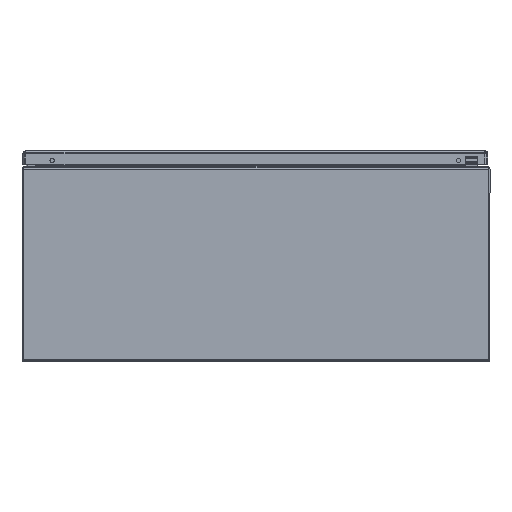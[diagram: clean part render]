
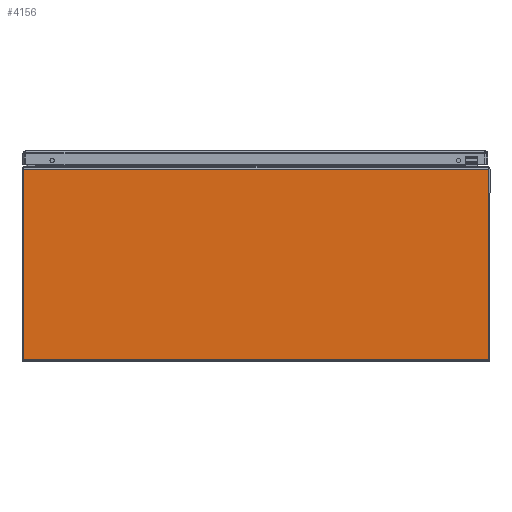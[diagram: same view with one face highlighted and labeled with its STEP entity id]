
A CAD part, front view. The second image highlights one B-rep face of the part: STEP entity #4156.
In plain terms, the highlighted planar face has unit normal (0, -1, 0).
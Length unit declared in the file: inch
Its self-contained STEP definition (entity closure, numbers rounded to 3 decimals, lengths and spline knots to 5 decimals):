
#732 = LINE ( 'NONE', #30303, #26408 ) ;
#1136 = VECTOR ( 'NONE', #42742, 39.37008 ) ;
#3720 = DIRECTION ( 'NONE',  ( 0., -1., 0. ) ) ;
#3725 = VECTOR ( 'NONE', #28875, 39.37008 ) ;
#4156 = ADVANCED_FACE ( 'NONE', ( #7754 ), #23772, .T. ) ;
#6454 = CARTESIAN_POINT ( 'NONE',  ( 11.93793, -18., 9.855 ) ) ;
#7754 = FACE_OUTER_BOUND ( 'NONE', #9989, .T. ) ;
#8266 = EDGE_CURVE ( 'NONE', #45092, #24192, #15678, .T. ) ;
#9459 = DIRECTION ( 'NONE',  ( 0., 0., -1. ) ) ;
#9973 = DIRECTION ( 'NONE',  ( 0., 0., 1. ) ) ;
#9989 = EDGE_LOOP ( 'NONE', ( #44501, #30630, #42772, #34886 ) ) ;
#10481 = LINE ( 'NONE', #18519, #1136 ) ;
#11654 = CARTESIAN_POINT ( 'NONE',  ( -11.93793, -18., 9.855 ) ) ;
#13500 = VECTOR ( 'NONE', #9973, 39.37008 ) ;
#13780 = CARTESIAN_POINT ( 'NONE',  ( -11.93793, -18., 0.106 ) ) ;
#14173 = LINE ( 'NONE', #35690, #3725 ) ;
#14244 = CARTESIAN_POINT ( 'NONE',  ( 11.93793, -18., 0.106 ) ) ;
#15678 = LINE ( 'NONE', #6454, #13500 ) ;
#16752 = EDGE_CURVE ( 'NONE', #41844, #24192, #10481, .T. ) ;
#18519 = CARTESIAN_POINT ( 'NONE',  ( -192., -18., 9.855 ) ) ;
#23772 = PLANE ( 'NONE',  #43362 ) ;
#24192 = VERTEX_POINT ( 'NONE', #41994 ) ;
#24642 = EDGE_CURVE ( 'NONE', #41844, #34052, #732, .T. ) ;
#26408 = VECTOR ( 'NONE', #9459, 39.37008 ) ;
#28875 = DIRECTION ( 'NONE',  ( 1., 0., 0. ) ) ;
#28996 = EDGE_CURVE ( 'NONE', #34052, #45092, #14173, .T. ) ;
#30303 = CARTESIAN_POINT ( 'NONE',  ( -11.93793, -18., 9.855 ) ) ;
#30630 = ORIENTED_EDGE ( 'NONE', *, *, #16752, .F. ) ;
#31493 = DIRECTION ( 'NONE',  ( 0., 0., -1. ) ) ;
#34052 = VERTEX_POINT ( 'NONE', #13780 ) ;
#34886 = ORIENTED_EDGE ( 'NONE', *, *, #28996, .T. ) ;
#35690 = CARTESIAN_POINT ( 'NONE',  ( -192., -18., 0.106 ) ) ;
#41049 = CARTESIAN_POINT ( 'NONE',  ( -192., -18., 9.855 ) ) ;
#41844 = VERTEX_POINT ( 'NONE', #11654 ) ;
#41994 = CARTESIAN_POINT ( 'NONE',  ( 11.93793, -18., 9.855 ) ) ;
#42742 = DIRECTION ( 'NONE',  ( 1., 0., 0. ) ) ;
#42772 = ORIENTED_EDGE ( 'NONE', *, *, #24642, .T. ) ;
#43362 = AXIS2_PLACEMENT_3D ( 'NONE', #41049, #3720, #31493 ) ;
#44501 = ORIENTED_EDGE ( 'NONE', *, *, #8266, .T. ) ;
#45092 = VERTEX_POINT ( 'NONE', #14244 ) ;
